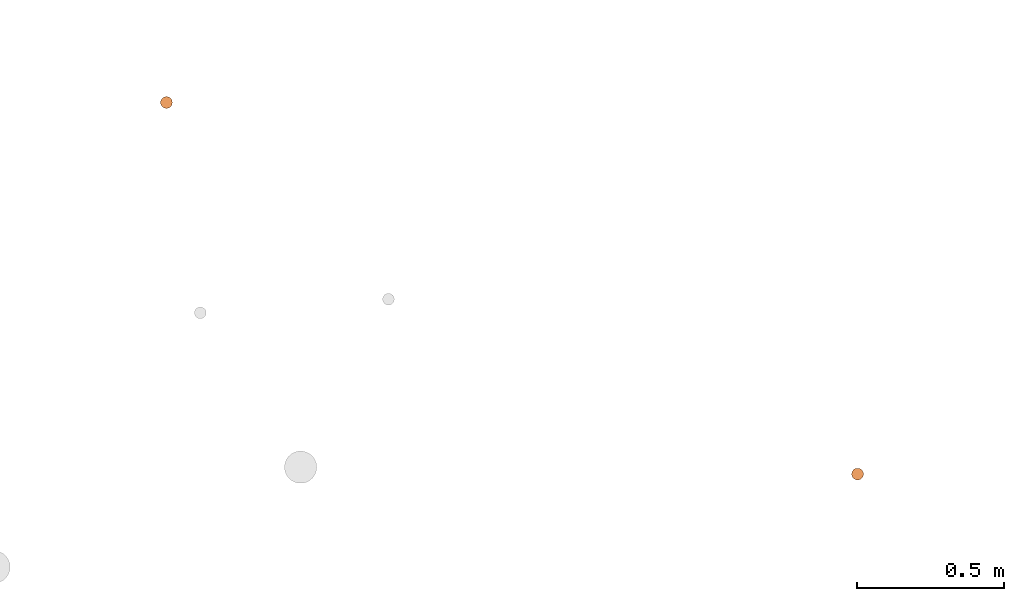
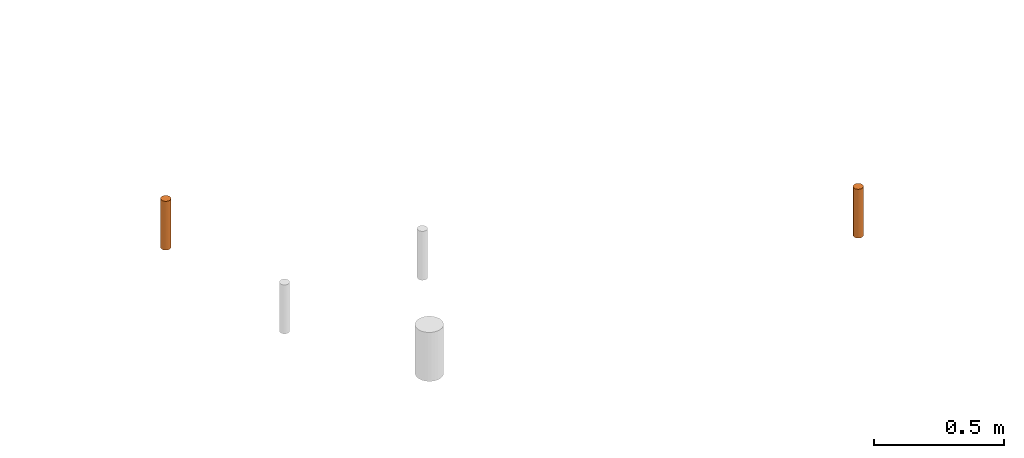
# One storey, part 5 of 16: 2 proxies.
"""IFC2X3 building model written with IfcOpenShell, lengths in centimetres."""

from ifc_helpers import new_model, entity, si_unit, converted_unit, derived_unit, direction, frame, origin, origin_2d_with_axis, place, context, subcontext, project, spatial, circle, extrude, source, transform, mapped, material, type_object, type_shapes, element, save


model = new_model("IFC2X3")

# Units and contexts
model_context = context("Model", 3, precision=0.001, world=origin(), true_north=direction((6.12303176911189e-17, 1.0)))
body_context = subcontext(model_context, "Body", "Model", "MODEL_VIEW")
ifc_project = project(units=[si_unit("LENGTHUNIT", "METRE", prefix="CENTI"), si_unit("AREAUNIT", "SQUARE_METRE"), si_unit("VOLUMEUNIT", "CUBIC_METRE"), converted_unit("PLANEANGLEUNIT", "DEGREE", entity("IfcRatioMeasure", 0.0174532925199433), si_unit("PLANEANGLEUNIT", "RADIAN"), dimensions=[0, 0, 0, 0, 0, 0, 0]), si_unit("MASSUNIT", "GRAM", prefix="KILO"), derived_unit("MASSDENSITYUNIT", [(si_unit("MASSUNIT", "GRAM", prefix="KILO"), 1), (si_unit("LENGTHUNIT", "METRE"), -3)]), si_unit("TIMEUNIT", "SECOND"), si_unit("FREQUENCYUNIT", "HERTZ"), si_unit("THERMODYNAMICTEMPERATUREUNIT", "DEGREE_CELSIUS"), derived_unit("THERMALTRANSMITTANCEUNIT", [(si_unit("MASSUNIT", "GRAM", prefix="KILO"), 1), (si_unit("THERMODYNAMICTEMPERATUREUNIT", "KELVIN"), -1), (si_unit("TIMEUNIT", "SECOND"), -3)]), derived_unit("VOLUMETRICFLOWRATEUNIT", [(si_unit("LENGTHUNIT", "METRE"), 3), (si_unit("TIMEUNIT", "SECOND"), -1)]), si_unit("ELECTRICCURRENTUNIT", "AMPERE"), si_unit("ELECTRICVOLTAGEUNIT", "VOLT"), si_unit("POWERUNIT", "WATT"), si_unit("FORCEUNIT", "NEWTON"), si_unit("ILLUMINANCEUNIT", "LUX"), si_unit("LUMINOUSFLUXUNIT", "LUMEN"), si_unit("LUMINOUSINTENSITYUNIT", "CANDELA"), derived_unit("USERDEFINED", [(si_unit("MASSUNIT", "GRAM", prefix="KILO"), -1), (si_unit("LENGTHUNIT", "METRE"), -2), (si_unit("TIMEUNIT", "SECOND"), 3), (si_unit("LUMINOUSFLUXUNIT", "LUMEN"), 1)]), derived_unit("LINEARVELOCITYUNIT", [(si_unit("LENGTHUNIT", "METRE"), 1), (si_unit("TIMEUNIT", "SECOND"), -1)]), si_unit("PRESSUREUNIT", "PASCAL"), derived_unit("USERDEFINED", [(si_unit("LENGTHUNIT", "METRE"), -2), (si_unit("MASSUNIT", "GRAM", prefix="KILO"), 1), (si_unit("TIMEUNIT", "SECOND"), -2)])], contexts=[model_context])

# Site, building, storey
site_placement = place(None, origin())
site = spatial("IfcSite", under=ifc_project, at=site_placement, Name="Default", CompositionType="ELEMENT")
building_placement = place(site_placement, origin())
building = spatial("IfcBuilding", under=site, at=building_placement, Name="CAGE 03", CompositionType="ELEMENT")
storey_placement = place(building_placement, frame((0.0, 0.0, 65.0)))
storey = spatial("IfcBuildingStorey", under=building, at=storey_placement, Name="Ac RDC", CompositionType="ELEMENT", Elevation=64.9999999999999)

# Proxies
ifc_material = material(Name="BBGO_Résa")
building_element_proxy_type_1 = type_object("IfcBuildingElementProxyType", Name="Ø40", PredefinedType="NOTDEFINED", material=ifc_material)
shared_shape_1 = source(origin(), body_context, "Body", "SweptSolid", [
    extrude(circle(Radius=2.0, at=origin_2d_with_axis()), frame((4512.72536430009, 4624.40585462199, 317.0)), (0.0, 0.0, 1.0), 22.9999999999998),
])
type_shapes(building_element_proxy_type_1, [shared_shape_1])
proxy_1_placement = place(storey_placement, frame((0.0, 0.0, -65.0)))
element("IfcBuildingElementProxy", 1, at=proxy_1_placement, inside=storey, type_object=building_element_proxy_type_1, material=ifc_material, Name="BBGO-Résa circ dalle:Ø40", ObjectType="Ø40", context=body_context, shape_type="MappedRepresentation", body=[
    mapped(shared_shape_1, transform((0.0, 0.0, 0.0), scale=1.0)),
])
building_element_proxy_type_2 = type_object("IfcBuildingElementProxyType", Name="Ø40", PredefinedType="NOTDEFINED", material=ifc_material)
shared_shape_2 = source(origin(), body_context, "Body", "SweptSolid", [
    extrude(circle(Radius=2.0, at=origin_2d_with_axis()), frame((4747.76915684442, 4498.01957692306, 317.0)), (0.0, 0.0, 1.0), 22.9999999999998),
])
type_shapes(building_element_proxy_type_2, [shared_shape_2])
proxy_2_placement = place(storey_placement, frame((0.0, 0.0, -65.0)))
element("IfcBuildingElementProxy", 2, at=proxy_2_placement, inside=storey, type_object=building_element_proxy_type_2, material=ifc_material, Name="BBGO-Résa circ dalle:Ø40", ObjectType="Ø40", context=body_context, shape_type="MappedRepresentation", body=[
    mapped(shared_shape_2, transform((0.0, 0.0, 0.0), scale=1.0)),
])

save(model, "model.ifc")
